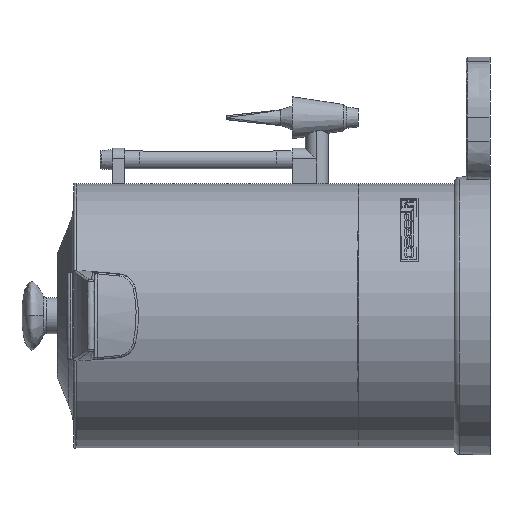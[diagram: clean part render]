
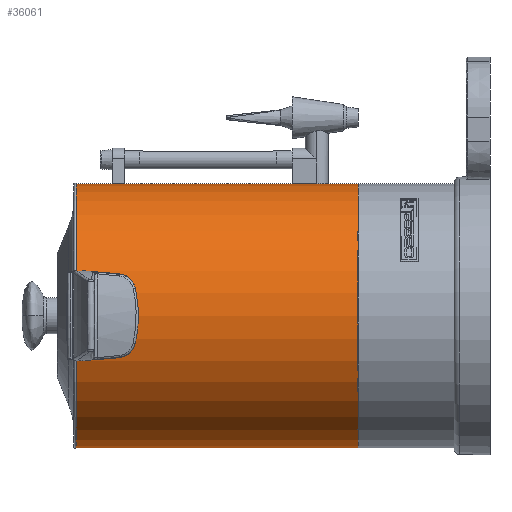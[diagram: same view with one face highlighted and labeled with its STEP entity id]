
A CAD part, left-side view. The second image highlights one B-rep face of the part: STEP entity #36061.
In plain terms, the highlighted cylindrical face has radius 110 mm (diameter 220 mm), a partial arc.
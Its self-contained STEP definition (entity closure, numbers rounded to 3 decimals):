
#2532 = CARTESIAN_POINT ( 'NONE',  ( 0., 42.439, 110. ) ) ;
#3767 = DIRECTION ( 'NONE',  ( 0., 1., 0. ) ) ;
#4764 = CARTESIAN_POINT ( 'NONE',  ( 0., 0., 110. ) ) ;
#10406 = CARTESIAN_POINT ( 'NONE',  ( 0., 235., -110. ) ) ;
#10908 = EDGE_CURVE ( 'NONE', #51356, #49425, #52178, .T. ) ;
#11139 = CARTESIAN_POINT ( 'NONE',  ( 0., 235., 0. ) ) ;
#11930 = CIRCLE ( 'NONE', #20008, 110. ) ;
#11988 = ORIENTED_EDGE ( 'NONE', *, *, #53707, .F. ) ;
#12666 = VECTOR ( 'NONE', #3767, 1000. ) ;
#12694 = AXIS2_PLACEMENT_3D ( 'NONE', #68754, #26044, #36567 ) ;
#13515 = CARTESIAN_POINT ( 'NONE',  ( 0., 235., 110. ) ) ;
#19732 = LINE ( 'NONE', #47237, #12666 ) ;
#20008 = AXIS2_PLACEMENT_3D ( 'NONE', #36112, #69374, #58189 ) ;
#24267 = CIRCLE ( 'NONE', #68169, 110. ) ;
#24615 = FACE_OUTER_BOUND ( 'NONE', #66226, .T. ) ;
#26044 = DIRECTION ( 'NONE',  ( 0., 1., 0. ) ) ;
#28166 = ORIENTED_EDGE ( 'NONE', *, *, #10908, .T. ) ;
#31183 = EDGE_CURVE ( 'NONE', #61301, #51356, #11930, .T. ) ;
#31317 = ORIENTED_EDGE ( 'NONE', *, *, #69152, .F. ) ;
#35150 = CYLINDRICAL_SURFACE ( 'NONE', #12694, 110. ) ;
#36061 = ADVANCED_FACE ( 'NONE', ( #24615 ), #35150, .T. ) ;
#36112 = CARTESIAN_POINT ( 'NONE',  ( 0., 0., 0. ) ) ;
#36567 = DIRECTION ( 'NONE',  ( 0., 0., 1. ) ) ;
#42363 = ORIENTED_EDGE ( 'NONE', *, *, #31183, .T. ) ;
#44447 = DIRECTION ( 'NONE',  ( 0., 0., 1. ) ) ;
#47237 = CARTESIAN_POINT ( 'NONE',  ( 0., 42.439, -110. ) ) ;
#49425 = VERTEX_POINT ( 'NONE', #13515 ) ;
#50977 = DIRECTION ( 'NONE',  ( 0., 1., 0. ) ) ;
#51093 = VECTOR ( 'NONE', #67094, 1000. ) ;
#51356 = VERTEX_POINT ( 'NONE', #4764 ) ;
#52178 = LINE ( 'NONE', #2532, #51093 ) ;
#53707 = EDGE_CURVE ( 'NONE', #64444, #49425, #24267, .T. ) ;
#58189 = DIRECTION ( 'NONE',  ( 0., 0., 1. ) ) ;
#61301 = VERTEX_POINT ( 'NONE', #69983 ) ;
#64444 = VERTEX_POINT ( 'NONE', #10406 ) ;
#66226 = EDGE_LOOP ( 'NONE', ( #31317, #42363, #28166, #11988 ) ) ;
#67094 = DIRECTION ( 'NONE',  ( 0., 1., 0. ) ) ;
#68169 = AXIS2_PLACEMENT_3D ( 'NONE', #11139, #50977, #44447 ) ;
#68754 = CARTESIAN_POINT ( 'NONE',  ( 0., 42.439, 0. ) ) ;
#69152 = EDGE_CURVE ( 'NONE', #61301, #64444, #19732, .T. ) ;
#69374 = DIRECTION ( 'NONE',  ( 0., 1., 0. ) ) ;
#69983 = CARTESIAN_POINT ( 'NONE',  ( 0., 0., -110. ) ) ;
